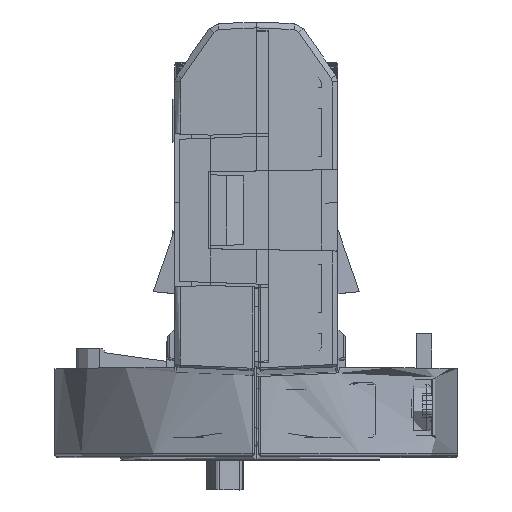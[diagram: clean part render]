
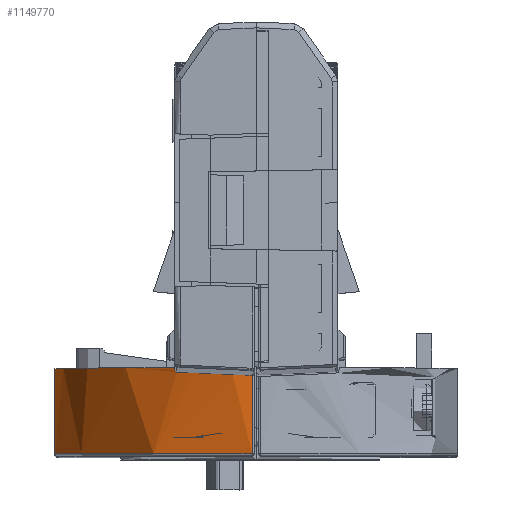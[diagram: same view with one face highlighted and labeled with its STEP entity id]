
A CAD part, top view. The second image highlights one B-rep face of the part: STEP entity #1149770.
In plain terms, the highlighted cylindrical face has radius 17 mm (diameter 34 mm), a partial arc.
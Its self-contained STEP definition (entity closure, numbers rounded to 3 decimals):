
#557650=CARTESIAN_POINT('',(6.7,-34.457,-7.));
#557660=DIRECTION('',(0.,0.,1.));
#557670=DIRECTION('',(1.,0.,0.));
#557680=AXIS2_PLACEMENT_3D('',#557650,#557660,#557670);
#557690=CYLINDRICAL_SURFACE('',#557680,0.2);
#557700=CARTESIAN_POINT('',(0.,-34.25,
-33.));
#557710=DIRECTION('',(0.,1.,0.));
#557720=DIRECTION('',(1.,0.,0.));
#557730=AXIS2_PLACEMENT_3D('',#557700,#557710,#557720);
#557740=CYLINDRICAL_SURFACE('',#557730,17.);
#557750=CARTESIAN_POINT('',(6.709,-34.657,
-48.62));
#557760=CARTESIAN_POINT('',(6.721,-34.657,
-48.615));
#557770=CARTESIAN_POINT('',(6.733,-34.655,
-48.61));
#557780=CARTESIAN_POINT('',(6.745,-34.652,
-48.605));
#557790=CARTESIAN_POINT('',(6.751,-34.651,
-48.602));
#557800=CARTESIAN_POINT('',(6.757,-34.649,
-48.6));
#557810=CARTESIAN_POINT('',(6.763,-34.647,
-48.597));
#557820=CARTESIAN_POINT('',(6.768,-34.645,
-48.595));
#557830=CARTESIAN_POINT('',(6.774,-34.643,
-48.592));
#557840=CARTESIAN_POINT('',(6.78,-34.641,
-48.59));
#557850=CARTESIAN_POINT('',(6.785,-34.638,
-48.587));
#557860=CARTESIAN_POINT('',(6.791,-34.635,
-48.585));
#557870=CARTESIAN_POINT('',(6.796,-34.632,
-48.582));
#557880=CARTESIAN_POINT('',(6.802,-34.629,
-48.58));
#557890=CARTESIAN_POINT('',(6.807,-34.626,
-48.578));
#557900=CARTESIAN_POINT('',(6.812,-34.623,
-48.575));
#557910=CARTESIAN_POINT('',(6.823,-34.616,
-48.571));
#557920=CARTESIAN_POINT('',(6.833,-34.608,
-48.567));
#557930=CARTESIAN_POINT('',(6.841,-34.599,
-48.563));
#557940=CARTESIAN_POINT('',(6.846,-34.594,
-48.561));
#557950=CARTESIAN_POINT('',(6.85,-34.589,
-48.559));
#557960=CARTESIAN_POINT('',(6.854,-34.584,
-48.557));
#557970=CARTESIAN_POINT('',(6.858,-34.58,
-48.555));
#557980=CARTESIAN_POINT('',(6.862,-34.574,
-48.553));
#557990=CARTESIAN_POINT('',(6.866,-34.569,
-48.552));
#558000=CARTESIAN_POINT('',(6.87,-34.564,
-48.55));
#558010=CARTESIAN_POINT('',(6.873,-34.558,
-48.549));
#558020=CARTESIAN_POINT('',(6.876,-34.552,
-48.547));
#558030=CARTESIAN_POINT('',(6.879,-34.547,
-48.546));
#558040=CARTESIAN_POINT('',(6.882,-34.541,
-48.545));
#558050=CARTESIAN_POINT('',(6.884,-34.535,
-48.544));
#558060=CARTESIAN_POINT('',(6.887,-34.529,
-48.543));
#558070=CARTESIAN_POINT('',(6.889,-34.522,
-48.542));
#558080=CARTESIAN_POINT('',(6.891,-34.516,
-48.541));
#558090=CARTESIAN_POINT('',(6.893,-34.51,
-48.54));
#558100=CARTESIAN_POINT('',(6.895,-34.503,
-48.539));
#558110=CARTESIAN_POINT('',(6.896,-34.497,
-48.538));
#558120=CARTESIAN_POINT('',(6.897,-34.49,
-48.538));
#558130=CARTESIAN_POINT('',(6.898,-34.484,
-48.537));
#558140=CARTESIAN_POINT('',(6.899,-34.477,
-48.537));
#558150=CARTESIAN_POINT('',(6.9,-34.471,
-48.537));
#558160=CARTESIAN_POINT('',(6.9,-34.464,
-48.537));
#558170=CARTESIAN_POINT('',(6.9,-34.457,
-48.537));
#558180=B_SPLINE_CURVE_WITH_KNOTS('',3,(#557750,#557760,#557770,#557780,
#557790,#557800,#557810,#557820,#557830,#557840,#557850,#557860,#557870,
#557880,#557890,#557900,#557910,#557920,#557930,#557940,#557950,#557960,
#557970,#557980,#557990,#558000,#558010,#558020,#558030,#558040,#558050,
#558060,#558070,#558080,#558090,#558100,#558110,#558120,#558130,#558140,
#558150,#558160,#558170),.UNSPECIFIED.,.F.,.F.,(4,3,3,3,3,3,3,3,3,3,3,3,
3,3,4),(0.,0.04,0.06,0.079,
0.099,0.119,0.159,0.179
,0.199,0.219,0.239,0.259,
0.279,0.299,0.319),.UNSPECIFIED.);
#558190=SURFACE_CURVE('',#558180,(#557690,#557740),.CURVE_3D.);
#558200=CARTESIAN_POINT('',(6.709,-34.657,
-48.62));
#558210=VERTEX_POINT('',#558200);
#558220=CARTESIAN_POINT('',(6.9,-34.457,
-48.537));
#558230=VERTEX_POINT('',#558220);
#558240=EDGE_CURVE('',#558210,#558230,#558190,.T.);
#569720=CARTESIAN_POINT('',(0.354,-34.934,
-49.996));
#569730=VERTEX_POINT('',#569720);
#569760=CARTESIAN_POINT('',(0.35,-34.735,-7.));
#569770=DIRECTION('',(0.,0.,1.));
#569780=DIRECTION('',(1.,0.,0.));
#569790=AXIS2_PLACEMENT_3D('',#569760,#569770,#569780);
#569800=CYLINDRICAL_SURFACE('',#569790,0.2);
#569810=CARTESIAN_POINT('',(0.354,-34.934,
-49.996));
#569820=CARTESIAN_POINT('',(0.355,-34.934,
-49.996));
#569830=CARTESIAN_POINT('',(0.355,-34.934,
-49.996));
#569840=CARTESIAN_POINT('',(0.355,-34.934,
-49.996));
#569850=CARTESIAN_POINT('',(0.356,-34.934,
-49.996));
#569860=CARTESIAN_POINT('',(0.356,-34.934,
-49.996));
#569870=CARTESIAN_POINT('',(0.356,-34.934,
-49.996));
#569880=CARTESIAN_POINT('',(0.357,-34.934,
-49.996));
#569890=CARTESIAN_POINT('',(0.357,-34.934,
-49.996));
#569900=CARTESIAN_POINT('',(0.358,-34.934,
-49.996));
#569910=CARTESIAN_POINT('',(0.358,-34.934,
-49.996));
#569920=CARTESIAN_POINT('',(0.358,-34.934,
-49.996));
#569930=CARTESIAN_POINT('',(0.359,-34.934,
-49.996));
#569940=B_SPLINE_CURVE_WITH_KNOTS('',3,(#569810,#569820,#569830,#569840,
#569850,#569860,#569870,#569880,#569890,#569900,#569910,#569920,#569930)
,.UNSPECIFIED.,.F.,.F.,(4,3,3,3,4),(0.,0.001,
0.002,0.003,0.005),
.UNSPECIFIED.);
#569950=SURFACE_CURVE('',#569940,(#569800,#557740),.CURVE_3D.);
#569960=CARTESIAN_POINT('',(0.359,-34.934,
-49.996));
#569970=VERTEX_POINT('',#569960);
#569980=EDGE_CURVE('',#569730,#569970,#569950,.T.);
#570210=CARTESIAN_POINT('',(0.,-34.95,
-33.));
#570220=DIRECTION('',(0.044,-0.999,
0.));
#570230=DIRECTION('',(-0.999,-0.044,
0.));
#570240=AXIS2_PLACEMENT_3D('',#570210,#570220,#570230);
#570250=ELLIPSE('',#570240,17.016,17.);
#570260=EDGE_CURVE('',#569970,#558210,#570250,.T.);
#589900=CARTESIAN_POINT('',(6.9,-34.25,
-48.537));
#589910=DIRECTION('',(0.,1.,0.));
#589920=VECTOR('',#589910,1.);
#589930=LINE('',#589900,#589920);
#589940=CARTESIAN_POINT('',(6.9,-34.25,
-48.537));
#589950=VERTEX_POINT('',#589940);
#589960=EDGE_CURVE('',#558230,#589950,#589930,.T.);
#734160=CARTESIAN_POINT('',(0.,-34.19,
-33.));
#734170=DIRECTION('',(-0.009,-1.,0.));
#734180=DIRECTION('',(-1.,0.009,0.));
#734190=AXIS2_PLACEMENT_3D('',#734160,#734170,#734180);
#734200=ELLIPSE('',#734190,17.001,17.);
#734210=CARTESIAN_POINT('',(17.,-34.338,-33.));
#734220=VERTEX_POINT('',#734210);
#734230=EDGE_CURVE('',#589950,#734220,#734200,.T.);
#1149420=CARTESIAN_POINT('',(0.,-34.25,
-33.));
#1149430=DIRECTION('',(0.,1.,0.));
#1149440=DIRECTION('',(1.,0.,0.));
#1149450=AXIS2_PLACEMENT_3D('',#1149420,#1149430,#1149440);
#1149460=CYLINDRICAL_SURFACE('',#1149450,17.);
#1149470=ORIENTED_EDGE('',*,*,#589960,.T.);
#1149480=ORIENTED_EDGE('',*,*,#558240,.T.);
#1149490=ORIENTED_EDGE('',*,*,#570260,.T.);
#1149500=ORIENTED_EDGE('',*,*,#569980,.T.);
#1149510=CARTESIAN_POINT('',(0.354,-34.25,
-49.996));
#1149520=DIRECTION('',(0.,1.,0.));
#1149530=VECTOR('',#1149520,1.);
#1149540=LINE('',#1149510,#1149530);
#1149550=CARTESIAN_POINT('',(0.354,-41.55,
-49.996));
#1149560=VERTEX_POINT('',#1149550);
#1149570=EDGE_CURVE('',#1149560,#569730,#1149540,.T.);
#1149580=ORIENTED_EDGE('',*,*,#1149570,.T.);
#1149590=CARTESIAN_POINT('',(0.,-41.55,
-33.));
#1149600=DIRECTION('',(0.,1.,0.));
#1149610=DIRECTION('',(1.,0.,0.));
#1149620=AXIS2_PLACEMENT_3D('',#1149590,#1149600,#1149610);
#1149630=CIRCLE('',#1149620,17.);
#1149640=CARTESIAN_POINT('',(17.,-41.55,-33.));
#1149650=VERTEX_POINT('',#1149640);
#1149660=EDGE_CURVE('',#1149650,#1149560,#1149630,.T.);
#1149670=ORIENTED_EDGE('',*,*,#1149660,.T.);
#1149680=CARTESIAN_POINT('',(17.,-34.25,-33.));
#1149690=DIRECTION('',(0.,1.,0.));
#1149700=VECTOR('',#1149690,1.);
#1149710=LINE('',#1149680,#1149700);
#1149720=EDGE_CURVE('',#1149650,#734220,#1149710,.T.);
#1149730=ORIENTED_EDGE('',*,*,#1149720,.F.);
#1149740=ORIENTED_EDGE('',*,*,#734230,.T.);
#1149750=EDGE_LOOP('',(#1149740,#1149730,#1149670,#1149580,#1149500,
#1149490,#1149480,#1149470));
#1149760=FACE_OUTER_BOUND('',#1149750,.T.);
#1149770=ADVANCED_FACE('',(#1149760),#1149460,.T.);
